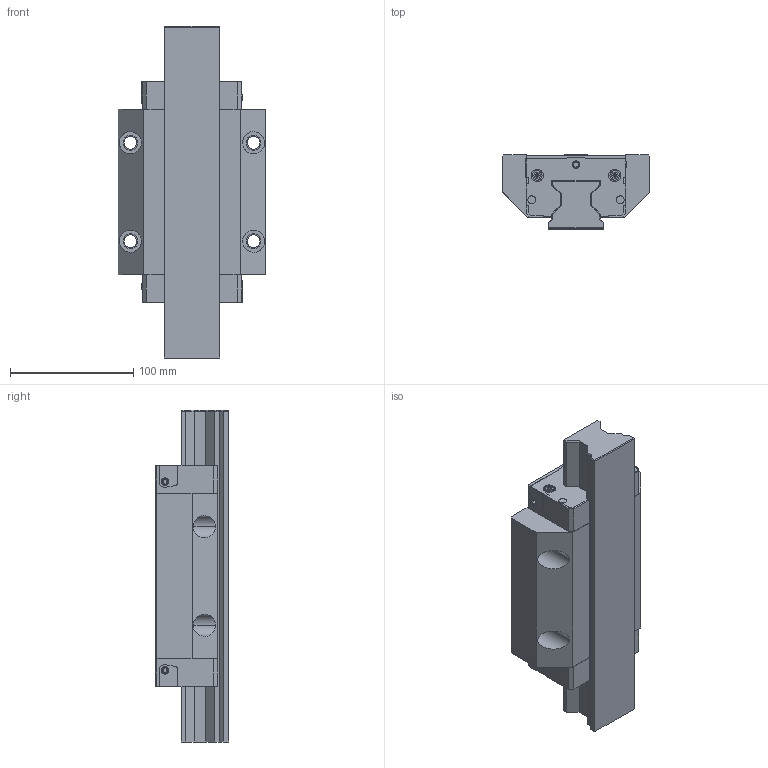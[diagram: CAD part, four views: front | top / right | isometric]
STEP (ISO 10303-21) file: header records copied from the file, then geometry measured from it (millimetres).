
FILE_DESCRIPTION((''),'2;1');
FILE_NAME('R1853_SIZE45_ASM','2021-07-06T07:50:50',('ac91sw'),(''),'CREO PARAMETRIC BY PTC INC, 2020044','CREO PARAMETRIC BY PTC INC, 2020044','');
FILE_SCHEMA(('AUTOMOTIVE_DESIGN { 1 0 10303 214 1 1 1 1 }'));
Length unit declared in the file: millimetre
Products named in the file (6): R1853_SIZE45_SKEL; R185342501; R185140702_Z; R913034226_Z; R1853_SIZE45_PSF; R1853_SIZE45_ASM
Assembly tree (11 placements, depth 2):
  R1853_SIZE45_ASM
    R1853_SIZE45_SKEL
    R185342501
    R185140702_Z  x2
    R913034226_Z  x6
    R1853_SIZE45_PSF
Bounding box: 120 x 60 x 269.5 mm (x, y, z)
Volume: 990073.4 mm3; surface area: 172276.1 mm2
Topology: 10 solids, 26 shells, 534 faces, 1362 edges, 874 vertices
Faces by surface type: plane 336, cylinder 142, cone 56
Entity records: 15419 total; most frequent: CARTESIAN_POINT 1931, DIRECTION 1598, ORIENTED_EDGE 1512, EDGE_CURVE 774, PROPERTY_DEFINITION 699, REPRESENTATION 692, PROPERTY_DEFINITION_REPRESENTATION 692, DESCRIPTIVE_REPRESENTATION_ITEM 643
